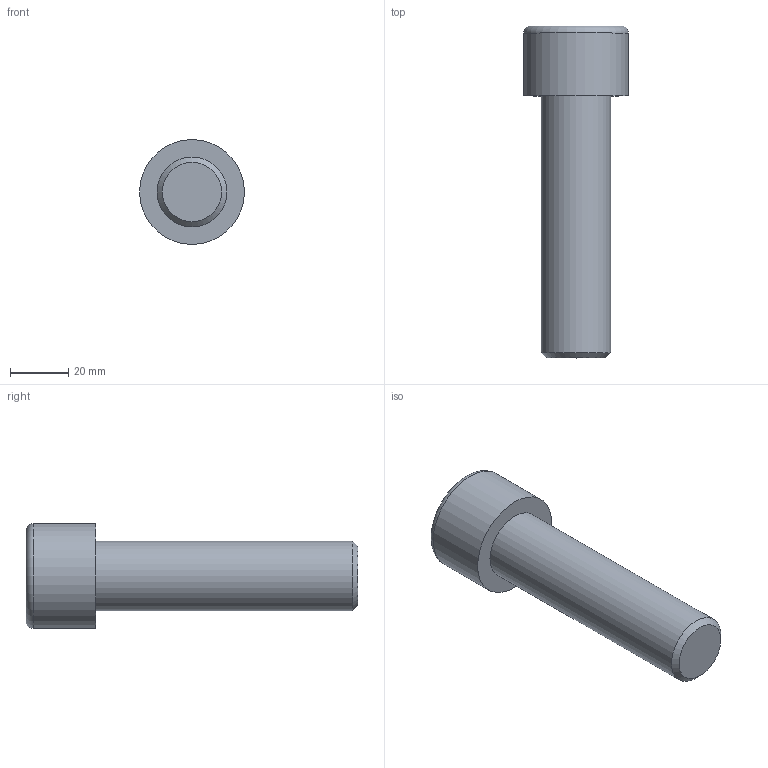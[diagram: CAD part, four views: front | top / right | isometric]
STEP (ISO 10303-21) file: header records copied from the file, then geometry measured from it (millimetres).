
FILE_DESCRIPTION(/* description */ (''),/* implementation_level */ '2;1');
FILE_NAME(/* name */ 'C:\Users\D\Documents\Inventor\各種小物\JIS\JIS B 1176 六角穴付きボルト\M24x90.stp',/* time_stamp */ '2022-05-09T18:59:52+09:00',/* author */ ('D'),/* organization */ (''),/* preprocessor_version */ 'ST-DEVELOPER v18',/* originating_system */ 'Autodesk Inventor 2020',/* authorisation */ '');
FILE_SCHEMA (('AUTOMOTIVE_DESIGN { 1 0 10303 214 3 1 1 }'));
Length unit declared in the file: millimetre
Products named in the file (1): M1.6x2.5
Bounding box: 36 x 114 x 36 mm (x, y, z)
Volume: 60359.5 mm3; surface area: 12206.1 mm2
Topology: 1 solids, 1 shells, 14 faces, 33 edges, 22 vertices
Faces by surface type: plane 9, cone 2, cylinder 2, torus 1
Full cylindrical faces by diameter (mm): 24 x1, 36 x1
Entity records: 435 total; most frequent: CARTESIAN_POINT 83, ORIENTED_EDGE 64, DIRECTION 64, EDGE_CURVE 32, AXIS2_PLACEMENT_3D 24, VERTEX_POINT 22, EDGE_LOOP 16, LINE 16
